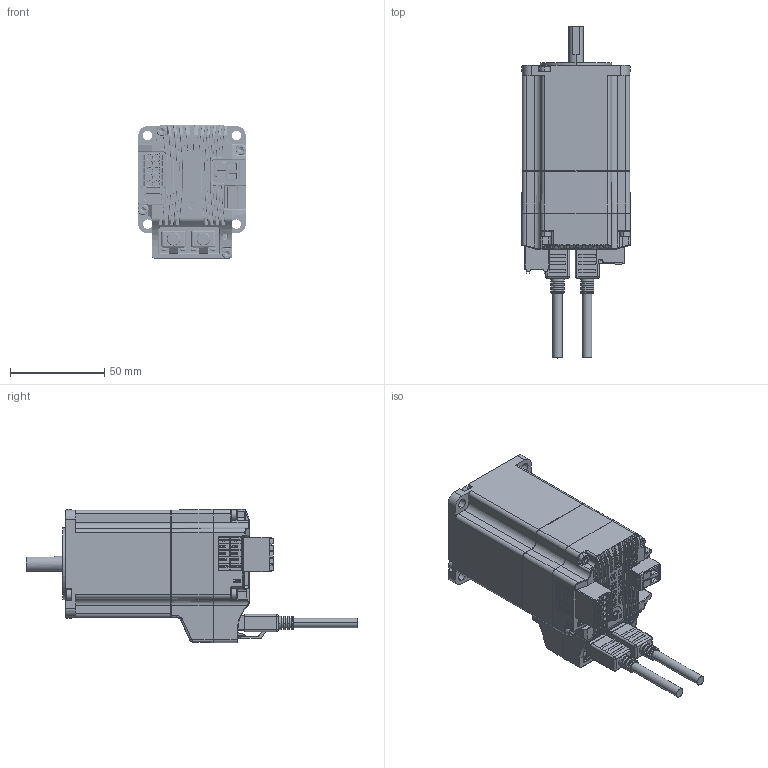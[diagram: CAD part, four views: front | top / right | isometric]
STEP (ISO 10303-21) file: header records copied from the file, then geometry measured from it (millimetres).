
FILE_DESCRIPTION((''),'2;1');
FILE_NAME('RT-IT57AM13-D0821-24V-E_C','2026-06-17T14:30:55',('ruiwe'),(''),'CREO PARAMETRIC BY PTC INC, 2021063','CREO PARAMETRIC BY PTC INC, 2021063','');
FILE_SCHEMA(('CONFIG_CONTROL_DESIGN','SHAPE_APPEARANCE_LAYERS_GROUPS'));
Products named in the file (1): RT-IT57AM13-D0821-24V-E_C
Bounding box: 57.77 x 176.32 x 70.77 mm (x, y, z)
Volume: 178647.5 mm3; surface area: 92304.6 mm2
Topology: 12 solids, 269 shells, 5228 faces, 16356 edges, 11542 vertices
Faces by surface type: plane 2744, cylinder 1378, torus 440, bspline 316, cone 275, sphere 69, extrusion 6
Entity records: 256891 total; most frequent: CARTESIAN_POINT 64885, ORIENTED_EDGE 29011, DIRECTION 26459, EDGE_CURVE 16336, PRESENTATION_STYLE_ASSIGNMENT 14643, STYLED_ITEM 13934, CURVE_STYLE 12562, VERTEX_POINT 11618
